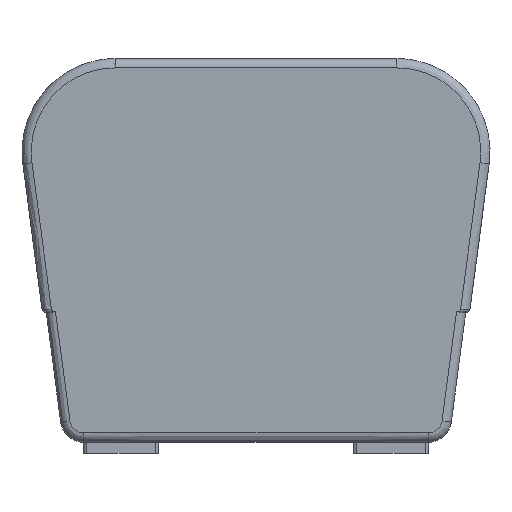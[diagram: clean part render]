
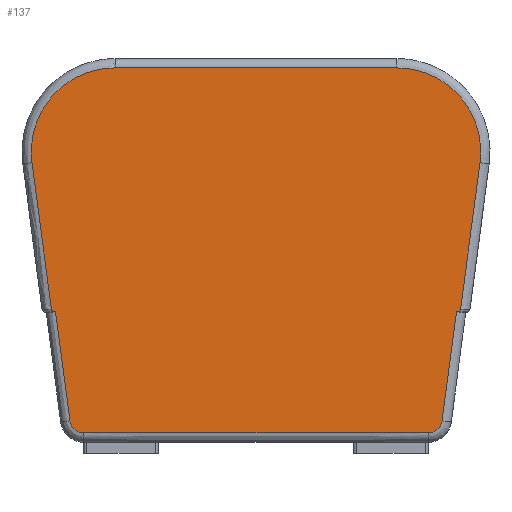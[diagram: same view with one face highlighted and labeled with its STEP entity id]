
A CAD part, left-side view. The second image highlights one B-rep face of the part: STEP entity #137.
In plain terms, the highlighted planar face has unit normal (-1, 0, 0).
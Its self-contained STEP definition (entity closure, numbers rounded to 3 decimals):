
#137=ADVANCED_FACE('',(#215),#1273,.T.);
#215=FACE_OUTER_BOUND('',#293,.T.);
#293=EDGE_LOOP('',(#382,#383,#384,#385,#386,#387,#388,#389,#390,#391,#392,
#393));
#382=ORIENTED_EDGE('',*,*,#750,.F.);
#383=ORIENTED_EDGE('',*,*,#749,.F.);
#384=ORIENTED_EDGE('',*,*,#753,.T.);
#385=ORIENTED_EDGE('',*,*,#751,.T.);
#386=ORIENTED_EDGE('',*,*,#752,.T.);
#387=ORIENTED_EDGE('',*,*,#744,.T.);
#388=ORIENTED_EDGE('',*,*,#743,.F.);
#389=ORIENTED_EDGE('',*,*,#745,.F.);
#390=ORIENTED_EDGE('',*,*,#746,.F.);
#391=ORIENTED_EDGE('',*,*,#747,.T.);
#392=ORIENTED_EDGE('',*,*,#748,.T.);
#393=ORIENTED_EDGE('',*,*,#742,.T.);
#742=EDGE_CURVE('',#1141,#1140,#952,.T.);
#743=EDGE_CURVE('',#1151,#1142,#953,.T.);
#744=EDGE_CURVE('',#1143,#1142,#954,.T.);
#745=EDGE_CURVE('',#1150,#1151,#955,.T.);
#746=EDGE_CURVE('',#1146,#1150,#956,.T.);
#747=EDGE_CURVE('',#1146,#1147,#957,.T.);
#748=EDGE_CURVE('',#1147,#1141,#958,.T.);
#749=EDGE_CURVE('',#1145,#1144,#959,.T.);
#750=EDGE_CURVE('',#1144,#1140,#960,.T.);
#751=EDGE_CURVE('',#1149,#1148,#961,.T.);
#752=EDGE_CURVE('',#1148,#1143,#962,.T.);
#753=EDGE_CURVE('',#1145,#1149,#963,.T.);
#952=(
BOUNDED_CURVE()
B_SPLINE_CURVE(3,(#1497,#1498,#1499,#1500),.UNSPECIFIED.,.F.,.F.)
B_SPLINE_CURVE_WITH_KNOTS((4,4),(1527.05,1533.654),
 .UNSPECIFIED.)
CURVE()
GEOMETRIC_REPRESENTATION_ITEM()
RATIONAL_B_SPLINE_CURVE((1.,1.,1.,1.))
REPRESENTATION_ITEM('')
);
#953=(
BOUNDED_CURVE()
B_SPLINE_CURVE(3,(#1501,#1502,#1503,#1504),.UNSPECIFIED.,.F.,.F.)
B_SPLINE_CURVE_WITH_KNOTS((4,4),(-725.281,-566.622),
 .UNSPECIFIED.)
CURVE()
GEOMETRIC_REPRESENTATION_ITEM()
RATIONAL_B_SPLINE_CURVE((1.,1.,1.,1.))
REPRESENTATION_ITEM('')
);
#954=(
BOUNDED_CURVE()
B_SPLINE_CURVE(3,(#1505,#1506,#1507,#1508),.UNSPECIFIED.,.F.,.F.)
B_SPLINE_CURVE_WITH_KNOTS((4,4),(560.018,566.622),
 .UNSPECIFIED.)
CURVE()
GEOMETRIC_REPRESENTATION_ITEM()
RATIONAL_B_SPLINE_CURVE((1.,1.,1.,1.))
REPRESENTATION_ITEM('')
);
#955=(
BOUNDED_CURVE()
B_SPLINE_CURVE(3,(#1509,#1510,#1511,#1512,#1513,#1514,#1515),
 .UNSPECIFIED.,.F.,.F.)
B_SPLINE_CURVE_WITH_KNOTS((4,3,4),(-895.538,-810.409,
-725.281),.UNSPECIFIED.)
CURVE()
GEOMETRIC_REPRESENTATION_ITEM()
RATIONAL_B_SPLINE_CURVE((1.,0.941,0.941,1.,
0.941,0.941,1.))
REPRESENTATION_ITEM('')
);
#956=(
BOUNDED_CURVE()
B_SPLINE_CURVE(3,(#1516,#1517,#1518,#1519),.UNSPECIFIED.,.F.,.F.)
B_SPLINE_CURVE_WITH_KNOTS((4,4),(-1198.134,-895.538),
 .UNSPECIFIED.)
CURVE()
GEOMETRIC_REPRESENTATION_ITEM()
RATIONAL_B_SPLINE_CURVE((1.,1.,1.,1.))
REPRESENTATION_ITEM('')
);
#957=(
BOUNDED_CURVE()
B_SPLINE_CURVE(3,(#1520,#1521,#1522,#1523,#1524,#1525,#1526),
 .UNSPECIFIED.,.F.,.F.)
B_SPLINE_CURVE_WITH_KNOTS((4,3,4),(1198.134,1283.263,1368.391),
 .UNSPECIFIED.)
CURVE()
GEOMETRIC_REPRESENTATION_ITEM()
RATIONAL_B_SPLINE_CURVE((1.,0.941,0.941,1.,
0.941,0.941,1.))
REPRESENTATION_ITEM('')
);
#958=(
BOUNDED_CURVE()
B_SPLINE_CURVE(3,(#1527,#1528,#1529,#1530),.UNSPECIFIED.,.F.,.F.)
B_SPLINE_CURVE_WITH_KNOTS((4,4),(1368.391,1527.05),
 .UNSPECIFIED.)
CURVE()
GEOMETRIC_REPRESENTATION_ITEM()
RATIONAL_B_SPLINE_CURVE((1.,1.,1.,1.))
REPRESENTATION_ITEM('')
);
#959=(
BOUNDED_CURVE()
B_SPLINE_CURVE(3,(#1531,#1532,#1533,#1534,#1535,#1536,#1537),
 .UNSPECIFIED.,.F.,.F.)
B_SPLINE_CURVE_WITH_KNOTS((4,1,1,1,4),(-35.976,-27.282,
-17.988,-8.693,0.),.UNSPECIFIED.)
CURVE()
GEOMETRIC_REPRESENTATION_ITEM()
RATIONAL_B_SPLINE_CURVE((1.,1.,1.,1.,1.,1.,1.))
REPRESENTATION_ITEM('')
);
#960=(
BOUNDED_CURVE()
B_SPLINE_CURVE(3,(#1538,#1539,#1540,#1541),.UNSPECIFIED.,.F.,.F.)
B_SPLINE_CURVE_WITH_KNOTS((4,4),(-118.236,0.),.UNSPECIFIED.)
CURVE()
GEOMETRIC_REPRESENTATION_ITEM()
RATIONAL_B_SPLINE_CURVE((1.,1.,1.,1.))
REPRESENTATION_ITEM('')
);
#961=(
BOUNDED_CURVE()
B_SPLINE_CURVE(3,(#1542,#1543,#1544,#1545,#1546,#1547,#1548),
 .UNSPECIFIED.,.F.,.F.)
B_SPLINE_CURVE_WITH_KNOTS((4,1,1,1,4),(-35.976,-27.282,
-17.988,-8.693,0.),.UNSPECIFIED.)
CURVE()
GEOMETRIC_REPRESENTATION_ITEM()
RATIONAL_B_SPLINE_CURVE((1.,1.,1.,1.,1.,1.,1.))
REPRESENTATION_ITEM('')
);
#962=(
BOUNDED_CURVE()
B_SPLINE_CURVE(3,(#1549,#1550,#1551,#1552),.UNSPECIFIED.,.F.,.F.)
B_SPLINE_CURVE_WITH_KNOTS((4,4),(-118.236,0.),.UNSPECIFIED.)
CURVE()
GEOMETRIC_REPRESENTATION_ITEM()
RATIONAL_B_SPLINE_CURVE((1.,1.,1.,1.))
REPRESENTATION_ITEM('')
);
#963=(
BOUNDED_CURVE()
B_SPLINE_CURVE(3,(#1553,#1554,#1555,#1556),.UNSPECIFIED.,.F.,.F.)
B_SPLINE_CURVE_WITH_KNOTS((4,4),(-369.831,0.),.UNSPECIFIED.)
CURVE()
GEOMETRIC_REPRESENTATION_ITEM()
RATIONAL_B_SPLINE_CURVE((1.,1.,1.,1.))
REPRESENTATION_ITEM('')
);
#1140=VERTEX_POINT('',#1485);
#1141=VERTEX_POINT('',#1486);
#1142=VERTEX_POINT('',#1487);
#1143=VERTEX_POINT('',#1488);
#1144=VERTEX_POINT('',#1489);
#1145=VERTEX_POINT('',#1490);
#1146=VERTEX_POINT('',#1491);
#1147=VERTEX_POINT('',#1492);
#1148=VERTEX_POINT('',#1493);
#1149=VERTEX_POINT('',#1494);
#1150=VERTEX_POINT('',#1495);
#1151=VERTEX_POINT('',#1496);
#1273=PLANE('',#1369);
#1369=AXIS2_PLACEMENT_3D('',#1484,#1387,$);
#1387=DIRECTION('',(-1.,0.,0.));
#1484=CARTESIAN_POINT('',(0.,-248.859,417.92));
#1485=CARTESIAN_POINT('',(0.,215.32,152.24));
#1486=CARTESIAN_POINT('',(0.,219.672,154.892));
#1487=CARTESIAN_POINT('',(0.,-219.672,154.892));
#1488=CARTESIAN_POINT('',(0.,-215.32,152.24));
#1489=CARTESIAN_POINT('',(0.,199.785,35.029));
#1490=CARTESIAN_POINT('',(0.,184.915,22.));
#1491=CARTESIAN_POINT('',(0.,151.298,414.));
#1492=CARTESIAN_POINT('',(0.,240.518,312.175));
#1493=CARTESIAN_POINT('',(0.,-199.785,35.029));
#1494=CARTESIAN_POINT('',(0.,-184.915,22.));
#1495=CARTESIAN_POINT('',(0.,-151.298,414.));
#1496=CARTESIAN_POINT('',(0.,-240.518,312.175));
#1497=CARTESIAN_POINT('',(0.,219.672,154.892));
#1498=CARTESIAN_POINT('',(0.,219.672,152.997));
#1499=CARTESIAN_POINT('',(0.,218.221,152.113));
#1500=CARTESIAN_POINT('',(0.,215.32,152.24));
#1501=CARTESIAN_POINT('',(0.,-240.518,312.175));
#1502=CARTESIAN_POINT('',(0.,-233.569,259.747));
#1503=CARTESIAN_POINT('',(0.,-226.621,207.319));
#1504=CARTESIAN_POINT('',(0.,-219.672,154.892));
#1505=CARTESIAN_POINT('',(0.,-215.32,152.24));
#1506=CARTESIAN_POINT('',(0.,-218.221,152.113));
#1507=CARTESIAN_POINT('',(0.,-219.672,152.997));
#1508=CARTESIAN_POINT('',(0.,-219.672,154.892));
#1509=CARTESIAN_POINT('',(0.,-151.298,414.));
#1510=CARTESIAN_POINT('',(0.,-177.639,414.));
#1511=CARTESIAN_POINT('',(0.,-201.63,403.124));
#1512=CARTESIAN_POINT('',(0.,-218.99,383.312));
#1513=CARTESIAN_POINT('',(0.,-236.349,363.5));
#1514=CARTESIAN_POINT('',(0.,-243.979,338.288));
#1515=CARTESIAN_POINT('',(0.,-240.518,312.175));
#1516=CARTESIAN_POINT('',(0.,151.298,414.));
#1517=CARTESIAN_POINT('',(0.,50.433,414.));
#1518=CARTESIAN_POINT('',(0.,-50.433,414.));
#1519=CARTESIAN_POINT('',(0.,-151.298,414.));
#1520=CARTESIAN_POINT('',(0.,151.298,414.));
#1521=CARTESIAN_POINT('',(0.,177.639,414.));
#1522=CARTESIAN_POINT('',(0.,201.63,403.124));
#1523=CARTESIAN_POINT('',(0.,218.99,383.312));
#1524=CARTESIAN_POINT('',(0.,236.349,363.5));
#1525=CARTESIAN_POINT('',(0.,243.979,338.288));
#1526=CARTESIAN_POINT('',(0.,240.518,312.175));
#1527=CARTESIAN_POINT('',(0.,240.518,312.175));
#1528=CARTESIAN_POINT('',(0.,233.569,259.747));
#1529=CARTESIAN_POINT('',(0.,226.621,207.319));
#1530=CARTESIAN_POINT('',(0.,219.672,154.892));
#1531=CARTESIAN_POINT('',(0.,184.915,22.));
#1532=CARTESIAN_POINT('',(0.,186.654,21.999));
#1533=CARTESIAN_POINT('',(0.,190.251,22.632));
#1534=CARTESIAN_POINT('',(0.,195.031,25.455));
#1535=CARTESIAN_POINT('',(0.,198.458,29.823));
#1536=CARTESIAN_POINT('',(0.,199.558,33.305));
#1537=CARTESIAN_POINT('',(0.,199.785,35.029));
#1538=CARTESIAN_POINT('',(0.,199.785,35.029));
#1539=CARTESIAN_POINT('',(0.,204.964,74.1));
#1540=CARTESIAN_POINT('',(0.,210.142,113.17));
#1541=CARTESIAN_POINT('',(0.,215.32,152.24));
#1542=CARTESIAN_POINT('',(0.,-184.915,22.));
#1543=CARTESIAN_POINT('',(0.,-186.654,21.999));
#1544=CARTESIAN_POINT('',(0.,-190.251,22.632));
#1545=CARTESIAN_POINT('',(0.,-195.031,25.455));
#1546=CARTESIAN_POINT('',(0.,-198.458,29.823));
#1547=CARTESIAN_POINT('',(0.,-199.558,33.305));
#1548=CARTESIAN_POINT('',(0.,-199.785,35.029));
#1549=CARTESIAN_POINT('',(0.,-199.785,35.029));
#1550=CARTESIAN_POINT('',(0.,-204.964,74.1));
#1551=CARTESIAN_POINT('',(0.,-210.142,113.17));
#1552=CARTESIAN_POINT('',(0.,-215.32,152.24));
#1553=CARTESIAN_POINT('',(0.,184.915,22.));
#1554=CARTESIAN_POINT('',(0.,61.638,22.));
#1555=CARTESIAN_POINT('',(0.,-61.638,22.));
#1556=CARTESIAN_POINT('',(0.,-184.915,22.));
